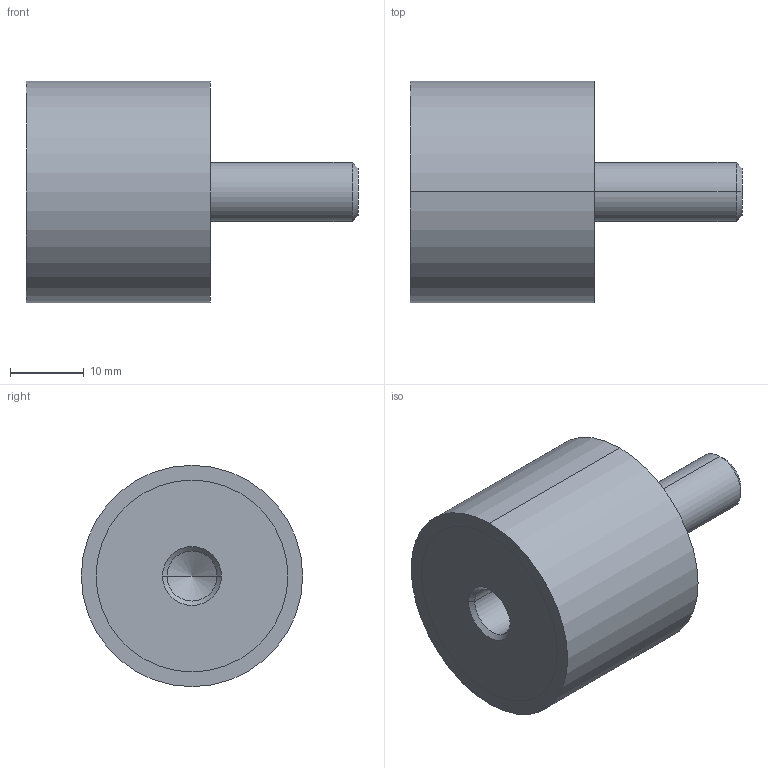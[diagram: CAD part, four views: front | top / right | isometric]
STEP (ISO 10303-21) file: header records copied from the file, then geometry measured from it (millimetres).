
FILE_DESCRIPTION (( 'STEP AP214' ), '1' );
FILE_NAME ('351-30-25-M8-ES-40.step', '2025-07-23T09:58:18', ( '' ), ( '' ), 'SwSTEP 2.0', 'SolidWorks 2022', '' );
FILE_SCHEMA (( 'AUTOMOTIVE_DESIGN' ));
Length unit declared in the file: millimetre
Products named in the file (1): 351-30-25-M8-ES-40
Bounding box: 45 x 30 x 30 mm (x, y, z)
Volume: 18306 mm3; surface area: 4452.2 mm2
Topology: 1 solids, 1 shells, 24 faces, 48 edges, 29 vertices
Faces by surface type: cylinder 12, cone 6, plane 6
Entity records: 740 total; most frequent: DIRECTION 124, CARTESIAN_POINT 100, ORIENTED_EDGE 92, AXIS2_PLACEMENT_3D 53, EDGE_CURVE 46, EDGE_LOOP 29, VERTEX_POINT 29, CIRCLE 28
